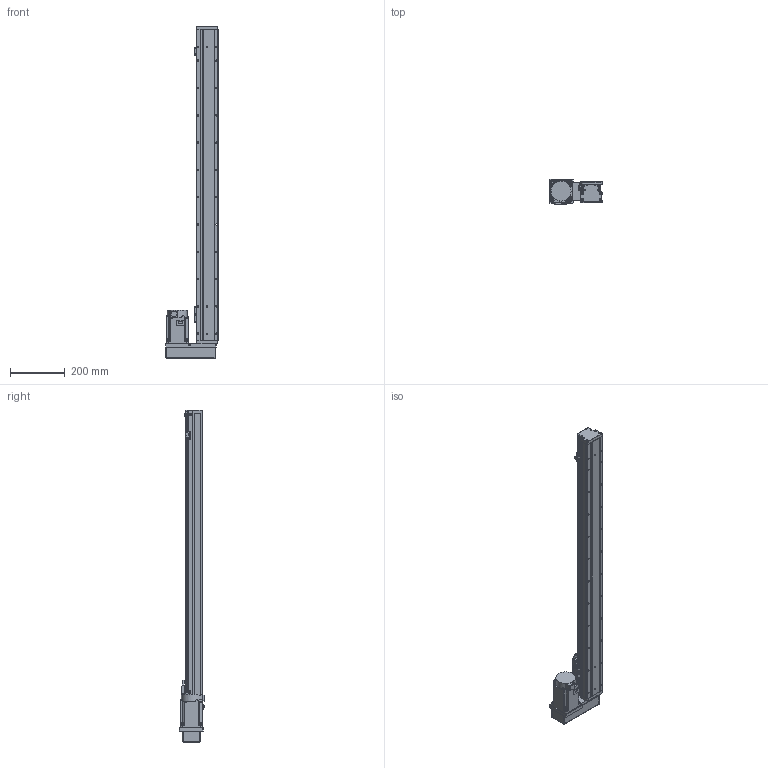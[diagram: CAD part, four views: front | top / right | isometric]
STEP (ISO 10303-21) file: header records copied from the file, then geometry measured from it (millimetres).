
FILE_DESCRIPTION (( 'STEP AP203' ), '1' );
FILE_NAME ('GTH8-950-BL-M75-C4.step', '2023-02-14T02:26:02', ( '微软用户' ), ( '微软中国' ), 'SwSTEP 2.0', 'SolidWorks 2020', '' );
FILE_SCHEMA (( 'CONFIG_CONTROL_DESIGN' ));
Length unit declared in the file: millimetre
Products named in the file (18): GBT 70.3-M3℅6; GBT96.1-2002 3×0.8; GTH80-022; BTH-M3X5X6; GTH80-001_950; GBT 70.1-M3℅6; CTHA86-015-3_CTHA86-015-4; GTH80-003; GBT 70.1-M4×16; CTHA86-035; GTH80-004; GTH80-028; hg-kn73j_-s100; GTH80-006; GTH50-024; GTH8-950-BL-M75-C4; GTH80-013; GTH50-023
Assembly tree (57 placements, depth 2):
  GTH8-950-BL-M75-C4
    GTH80-001_950
    GTH80-003
    GTH80-004
    GTH80-006
    GTH80-013
    GBT 70.3-M3℅6  x4
    GTH80-022
    GBT 70.1-M3℅6  x14
    GBT 70.1-M4×16  x8
    GTH80-028  x2
    GTH50-024  x3
    GTH50-023  x3
    GBT96.1-2002 3×0.8  x6
    BTH-M3X5X6  x8
    CTHA86-015-3_CTHA86-015-4
    CTHA86-035
    hg-kn73j_-s100
Bounding box: 193.5 x 92.3 x 1216 mm (x, y, z)
Volume: 6479594.1 mm3; surface area: 623347.6 mm2
Topology: 59 solids, 59 shells, 2211 faces, 5142 edges, 3152 vertices
Faces by surface type: plane 1153, cylinder 643, cone 243, torus 158, sphere 12, bspline 2
Entity records: 40180 total; most frequent: CARTESIAN_POINT 6743, DIRECTION 6641, ORIENTED_EDGE 6094, EDGE_CURVE 3047, AXIS2_PLACEMENT_3D 2350, LINE 1941, VECTOR 1941, VERTEX_POINT 1927
